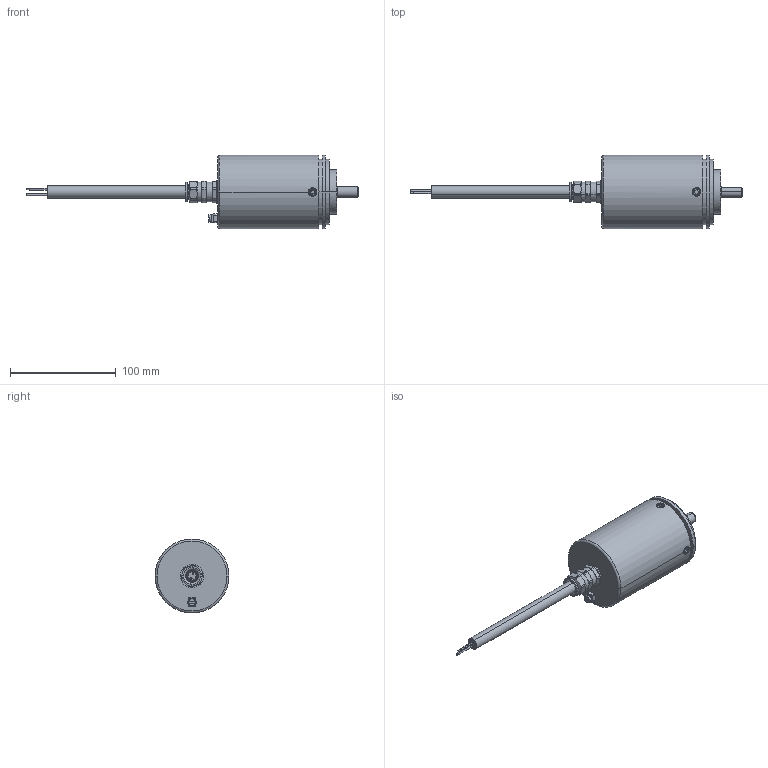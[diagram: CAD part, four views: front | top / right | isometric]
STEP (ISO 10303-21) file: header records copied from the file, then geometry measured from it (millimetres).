
FILE_DESCRIPTION (( 'STEP AP203' ), '1' );
FILE_NAME ('8.7053FSX.1241.XXXX.XXXX.STEP', '2013-07-26T10:52:27', ( 'Admin' ), ( 'Fritz Kübler GmbH' ), 'SwSTEP 2.0', 'SolidWorks 2012', '' );
FILE_SCHEMA (( 'CONFIG_CONTROL_DESIGN' ));
Length unit declared in the file: millimetre
Products named in the file (1): 8.7053FSX.1241.XXXX.XXXX
Bounding box: 314.3 x 70 x 70 mm (x, y, z)
Volume: 278530.8 mm3; surface area: 97760.5 mm2
Topology: 21 solids, 22 shells, 1063 faces, 2560 edges, 1590 vertices
Faces by surface type: cylinder 424, plane 358, cone 178, torus 83, sphere 20
Entity records: 31883 total; most frequent: CARTESIAN_POINT 6728, DIRECTION 5590, ORIENTED_EDGE 4952, EDGE_CURVE 2476, AXIS2_PLACEMENT_3D 2182, VERTEX_POINT 1560, EDGE_LOOP 1236, VECTOR 1226
